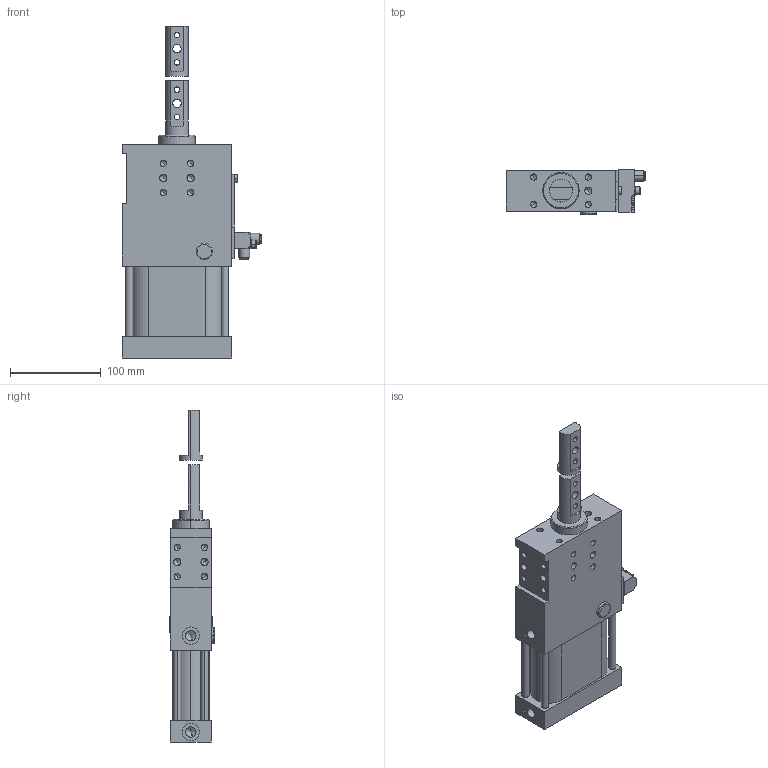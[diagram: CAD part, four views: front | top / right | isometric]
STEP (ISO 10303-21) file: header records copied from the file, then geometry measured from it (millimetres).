
FILE_DESCRIPTION(('CATIA V5 STEP Exchange'),'2;1');
FILE_NAME('G:\Konstruktion\Modelle\UPLOAD\SZK_63_1_BR3_A22_T12_TUENKERS.stp','2016-10-17T10:28:45+00:00',('none'),('none'),'CATIA Version 5 Release 19 SP 9 (IN-10)','CATIA V5 STEP AP214','none');
FILE_SCHEMA(('AUTOMOTIVE_DESIGN { 1 0 10303 214 1 1 1 1 }'));
Length unit declared in the file: millimetre
Products named in the file (1): SZK_63_1_BR3_A22_T12_TUENKERS
Bounding box: 153 x 49.5 x 365 mm (x, y, z)
Volume: 1202773.3 mm3; surface area: 115882.5 mm2
Topology: 2 solids, 2 shells, 241 faces, 654 edges, 398 vertices
Faces by surface type: cylinder 100, plane 67, cone 56, sphere 12, torus 6
Entity records: 8420 total; most frequent: CARTESIAN_POINT 1351, ORIENTED_EDGE 1184, DIRECTION 862, EDGE_CURVE 592, AXIS2_PLACEMENT_3D 440, VERTEX_POINT 398, EDGE_LOOP 304, CIRCLE 293
